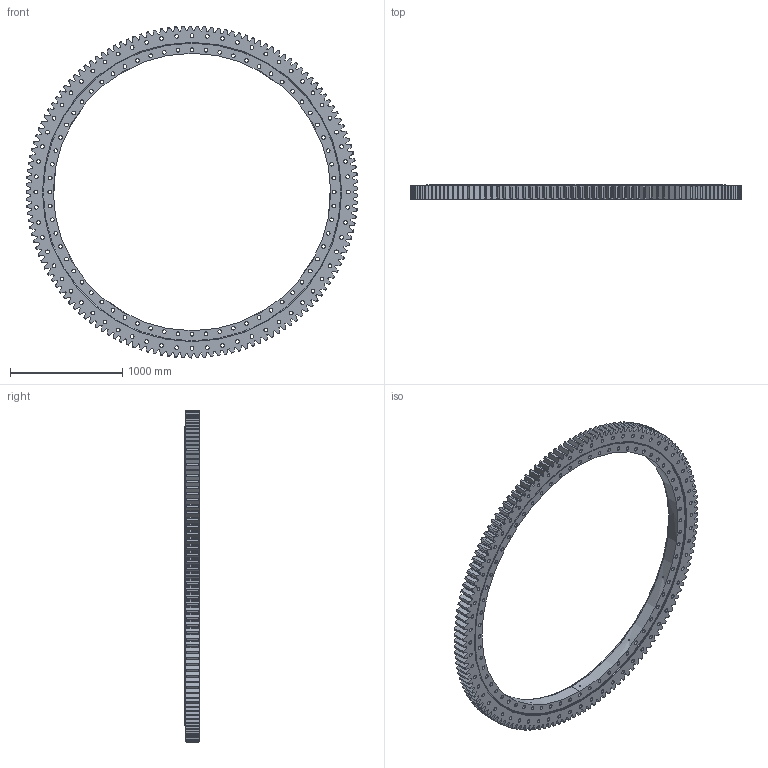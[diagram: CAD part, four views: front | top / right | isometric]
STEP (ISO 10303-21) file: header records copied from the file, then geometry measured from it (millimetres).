
FILE_DESCRIPTION (( 'STEP AP214' ), '1' );
FILE_NAME ('SM2150-2-2956AA.STEP', '2022-11-29T06:57:04', ( '' ), ( '' ), 'SwSTEP 2.0', 'SolidWorks 2020', '' );
FILE_SCHEMA (( 'AUTOMOTIVE_DESIGN' ));
Length unit declared in the file: millimetre
Products named in the file (1): SM2150-2-2956AA
Bounding box: 2955.82 x 130 x 2955.97 mm (x, y, z)
Volume: 210758529.9 mm3; surface area: 10928051.1 mm2
Topology: 4 solids, 4 shells, 1372 faces, 4037 edges, 2690 vertices
Faces by surface type: plane 605, cylinder 469, cone 298
Entity records: 48542 total; most frequent: CARTESIAN_POINT 12270, ORIENTED_EDGE 8074, DIRECTION 6912, EDGE_CURVE 4037, VERTEX_POINT 2690, AXIS2_PLACEMENT_3D 2565, VECTOR 1782, LINE 1782
